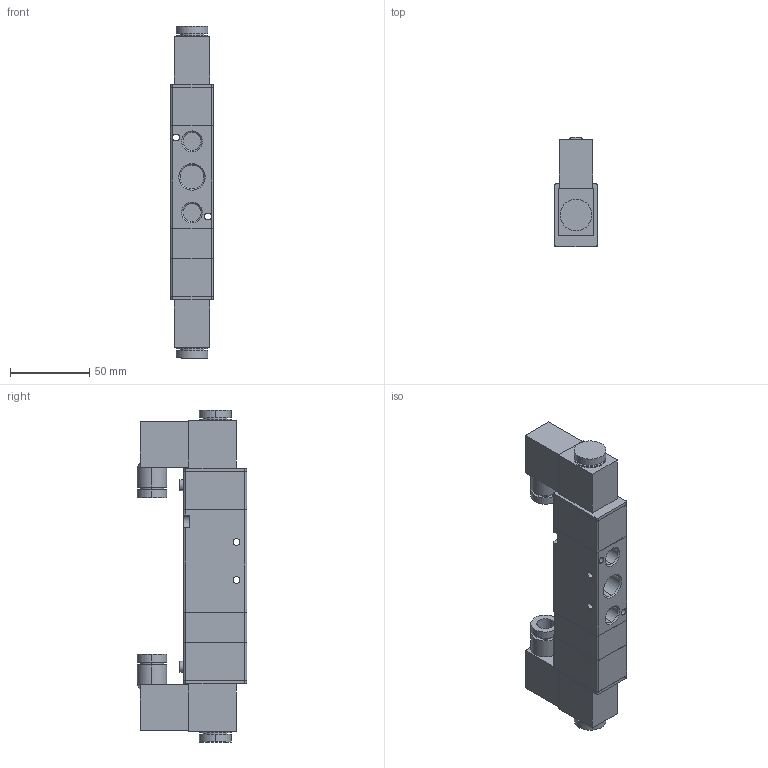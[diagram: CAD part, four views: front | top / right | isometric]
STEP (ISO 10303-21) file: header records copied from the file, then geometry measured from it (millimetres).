
FILE_DESCRIPTION (( 'STEP AP203' ), '1' );
FILE_NAME ('VB5-F03.STEP', '2020-04-15T17:02:04', ( '' ), ( '' ), 'SwSTEP 2.0', 'SolidWorks 2019', '' );
FILE_SCHEMA (( 'CONFIG_CONTROL_DESIGN' ));
Length unit declared in the file: millimetre
Products named in the file (1): VB5-F03
Bounding box: 27 x 69.3 x 209.8 mm (x, y, z)
Volume: 222440.3 mm3; surface area: 42307.4 mm2
Topology: 1 solids, 1 shells, 168 faces, 400 edges, 262 vertices
Faces by surface type: cylinder 78, plane 78, cone 12
Entity records: 5106 total; most frequent: CARTESIAN_POINT 946, DIRECTION 906, ORIENTED_EDGE 800, EDGE_CURVE 400, AXIS2_PLACEMENT_3D 339, VERTEX_POINT 262, VECTOR 228, LINE 228
